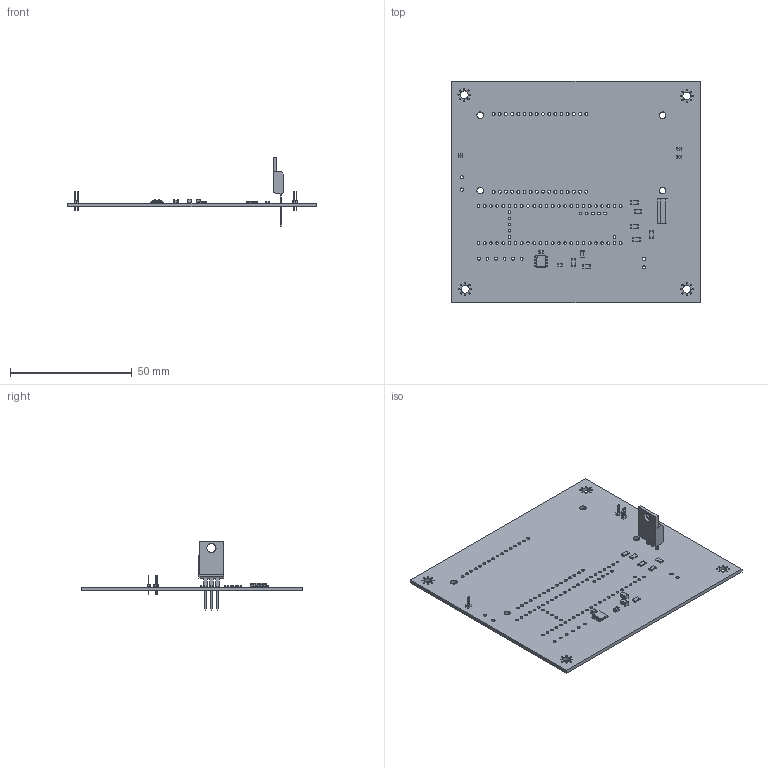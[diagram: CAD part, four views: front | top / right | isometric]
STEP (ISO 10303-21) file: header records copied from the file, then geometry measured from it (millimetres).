
FILE_DESCRIPTION(('KiCad electronic assembly'),'2;1');
FILE_NAME('CapstoneMk2.step','2026-02-08T14:22:19',('Pcbnew'),('Kicad'), 'Open CASCADE STEP processor 7.8','KiCad to STEP converter','Unknown' );
FILE_SCHEMA(('AUTOMOTIVE_DESIGN { 1 0 10303 214 1 1 1 1 }'));
Length unit declared in the file: millimetre
Products named in the file (9): CapstoneMk2 1; TO-220-3_Vertical; R_1206_3216Metric; C_0805_2012Metric; PinHeader_1x02_P1.00mm_Vertical; L_1206_3216Metric; TI_SO-PowerPAD-8; C_1206_3216Metric; CapstoneMk2_PCB
Assembly tree (16 placements, depth 2):
  CapstoneMk2 1
    TO-220-3_Vertical
    R_1206_3216Metric  x6
    C_0805_2012Metric  x2
    PinHeader_1x02_P1.00mm_Vertical  x3
    L_1206_3216Metric
    TI_SO-PowerPAD-8
    C_1206_3216Metric
    CapstoneMk2_PCB
Bounding box: 102 x 91 x 28.52 mm (x, y, z)
Volume: 14310.8 mm3; surface area: 20484.8 mm2
Topology: 16 solids, 16 shells, 784 faces, 2065 edges, 1334 vertices
Faces by surface type: plane 472, cylinder 280, bspline 32
Full cylindrical faces by diameter (mm): 0.2 x1, 0.5 x38, 1.1 x3, 1.11 x59, 1.2 x38, 1.3 x4, 2.7 x4, 3.2 x4, 3.735 x1
Entity records: 19745 total; most frequent: CARTESIAN_POINT 2990, DIRECTION 2847, ORIENTED_EDGE 2818, EDGE_CURVE 1409, AXIS2_PLACEMENT_3D 963, LINE 921, VECTOR 921, VERTEX_POINT 914
